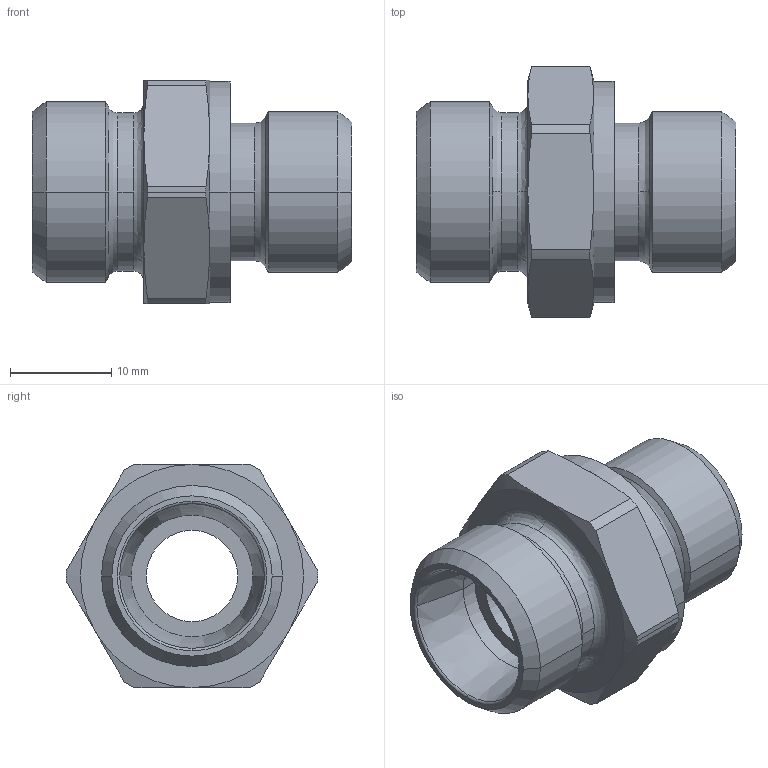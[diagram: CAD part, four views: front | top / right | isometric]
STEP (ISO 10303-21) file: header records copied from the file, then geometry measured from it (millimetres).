
FILE_DESCRIPTION((''),'2;1');
FILE_NAME('100607.stp','2007-10-30T15:00:55',(''),(''),'AutoCAD STEP 2000i','AutoCAD 2000i',', , ');
FILE_SCHEMA(('CONFIG_CONTROL_DESIGN'));
Length unit declared in the file: millimetre
Products named in the file (2): 100607.0; CHIAVE SMUSSATA#0
Assembly tree (1 placements, depth 2):
  100607.0
    CHIAVE SMUSSATA#0
Bounding box: 31.5 x 24.8 x 22 mm (x, y, z)
Volume: 5432 mm3; surface area: 3573.4 mm2
Topology: 1 solids, 1 shells, 75 faces, 185 edges, 117 vertices
Faces by surface type: cylinder 24, cone 24, plane 13, bspline 12, torus 2
Entity records: 2835 total; most frequent: CARTESIAN_POINT 955, DIRECTION 410, ORIENTED_EDGE 370, EDGE_CURVE 185, AXIS2_PLACEMENT_3D 184, CIRCLE 119, VERTEX_POINT 117, EDGE_LOOP 82
